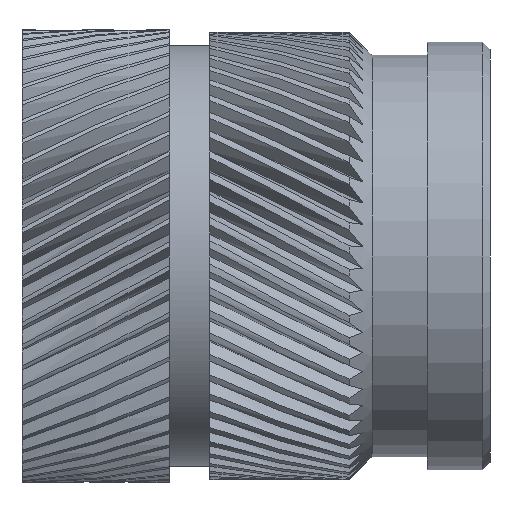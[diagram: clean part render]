
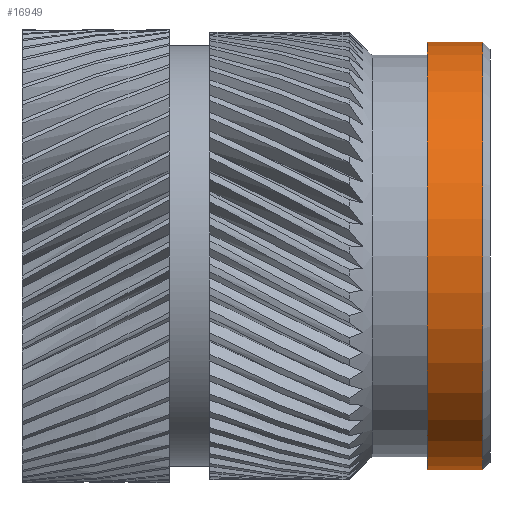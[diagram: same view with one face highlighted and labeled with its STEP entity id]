
A CAD part, front view. The second image highlights one B-rep face of the part: STEP entity #16949.
In plain terms, the highlighted cylindrical face has radius 5.8 mm (diameter 11.6 mm), a partial arc.
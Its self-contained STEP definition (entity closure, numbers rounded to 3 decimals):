
#219 = CARTESIAN_POINT ( 'NONE',  ( 4.475, 0., 0. ) ) ;
#969 = DIRECTION ( 'NONE',  ( 0., 0., -1. ) ) ;
#980 = EDGE_CURVE ( 'NONE', #42960, #3892, #38123, .T. ) ;
#3892 = VERTEX_POINT ( 'NONE', #29983 ) ;
#4431 = AXIS2_PLACEMENT_3D ( 'NONE', #11656, #22247, #49593 ) ;
#4468 = DIRECTION ( 'NONE',  ( 0., 0., -1. ) ) ;
#4604 = CIRCLE ( 'NONE', #33680, 5.8 ) ;
#5178 = LINE ( 'NONE', #9121, #27862 ) ;
#8821 = ORIENTED_EDGE ( 'NONE', *, *, #26055, .T. ) ;
#9121 = CARTESIAN_POINT ( 'NONE',  ( 4.475, 0., -5.8 ) ) ;
#11656 = CARTESIAN_POINT ( 'NONE',  ( -0.2, 0., 0. ) ) ;
#12175 = CIRCLE ( 'NONE', #4431, 5.8 ) ;
#16949 = ADVANCED_FACE ( 'NONE', ( #46060 ), #50321, .T. ) ;
#17554 = EDGE_CURVE ( 'NONE', #42960, #58495, #4604, .T. ) ;
#17677 = EDGE_CURVE ( 'NONE', #58495, #48424, #5178, .T. ) ;
#18174 = AXIS2_PLACEMENT_3D ( 'NONE', #219, #50017, #4468 ) ;
#18593 = CARTESIAN_POINT ( 'NONE',  ( -1.7, 0., 0. ) ) ;
#19144 = DIRECTION ( 'NONE',  ( 1., 0., 0. ) ) ;
#22247 = DIRECTION ( 'NONE',  ( -1., 0., 0. ) ) ;
#23105 = VECTOR ( 'NONE', #23552, 1000. ) ;
#23552 = DIRECTION ( 'NONE',  ( 1., 0., 0. ) ) ;
#26055 = EDGE_CURVE ( 'NONE', #48424, #3892, #12175, .T. ) ;
#27862 = VECTOR ( 'NONE', #19144, 1000. ) ;
#28288 = DIRECTION ( 'NONE',  ( 1., 0., 0. ) ) ;
#29983 = CARTESIAN_POINT ( 'NONE',  ( -0.2, 0., 5.8 ) ) ;
#33680 = AXIS2_PLACEMENT_3D ( 'NONE', #18593, #28288, #969 ) ;
#34818 = ORIENTED_EDGE ( 'NONE', *, *, #17677, .T. ) ;
#38123 = LINE ( 'NONE', #46637, #23105 ) ;
#38273 = EDGE_LOOP ( 'NONE', ( #57072, #43989, #34818, #8821 ) ) ;
#40527 = CARTESIAN_POINT ( 'NONE',  ( -1.7, 0., 5.8 ) ) ;
#42206 = CARTESIAN_POINT ( 'NONE',  ( -1.7, 0., -5.8 ) ) ;
#42960 = VERTEX_POINT ( 'NONE', #40527 ) ;
#43989 = ORIENTED_EDGE ( 'NONE', *, *, #17554, .T. ) ;
#46060 = FACE_OUTER_BOUND ( 'NONE', #38273, .T. ) ;
#46637 = CARTESIAN_POINT ( 'NONE',  ( 4.475, 0., 5.8 ) ) ;
#48424 = VERTEX_POINT ( 'NONE', #49509 ) ;
#49509 = CARTESIAN_POINT ( 'NONE',  ( -0.2, 0., -5.8 ) ) ;
#49593 = DIRECTION ( 'NONE',  ( 0., 0., -1. ) ) ;
#50017 = DIRECTION ( 'NONE',  ( 1., 0., 0. ) ) ;
#50321 = CYLINDRICAL_SURFACE ( 'NONE', #18174, 5.8 ) ;
#57072 = ORIENTED_EDGE ( 'NONE', *, *, #980, .F. ) ;
#58495 = VERTEX_POINT ( 'NONE', #42206 ) ;
